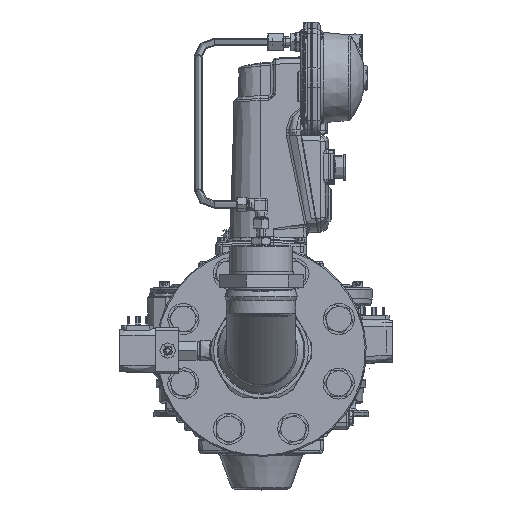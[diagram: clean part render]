
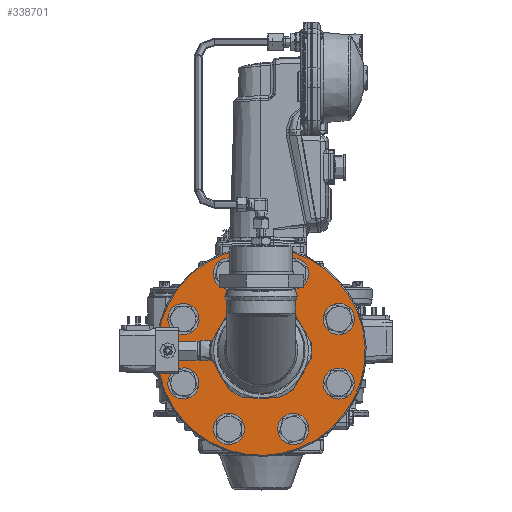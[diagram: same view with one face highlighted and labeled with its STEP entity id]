
A CAD part, top view. The second image highlights one B-rep face of the part: STEP entity #338701.
In plain terms, the highlighted planar face has unit normal (0, 0, 1).
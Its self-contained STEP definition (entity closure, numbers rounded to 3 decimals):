
#942 = AXIS2_PLACEMENT_3D ( 'NONE', #236037, #197638, #115906 ) ;
#6145 = CIRCLE ( 'NONE', #145949, 9. ) ;
#9088 = CARTESIAN_POINT ( 'NONE',  ( 73.91, -30.615, 177. ) ) ;
#9138 = EDGE_LOOP ( 'NONE', ( #313702 ) ) ;
#15978 = CARTESIAN_POINT ( 'NONE',  ( 73.91, 30.615, 177. ) ) ;
#16711 = ORIENTED_EDGE ( 'NONE', *, *, #427840, .F. ) ;
#17687 = FACE_BOUND ( 'NONE', #94464, .T. ) ;
#22355 = CIRCLE ( 'NONE', #87403, 9. ) ;
#30696 = AXIS2_PLACEMENT_3D ( 'NONE', #436370, #285268, #438878 ) ;
#41658 = EDGE_CURVE ( 'NONE', #272665, #272665, #424377, .T. ) ;
#45872 = FACE_BOUND ( 'NONE', #387674, .T. ) ;
#50872 = DIRECTION ( 'NONE',  ( 0.924, 0.383, 0. ) ) ;
#53756 = EDGE_LOOP ( 'NONE', ( #16711 ) ) ;
#56399 = VERTEX_POINT ( 'NONE', #284028 ) ;
#57011 = CARTESIAN_POINT ( 'NONE',  ( 22.3, -77.355, 177. ) ) ;
#71467 = EDGE_LOOP ( 'NONE', ( #86820 ) ) ;
#76656 = CIRCLE ( 'NONE', #493379, 9. ) ;
#83986 = CARTESIAN_POINT ( 'NONE',  ( -82.225, 27.171, 177. ) ) ;
#86820 = ORIENTED_EDGE ( 'NONE', *, *, #128299, .T. ) ;
#87403 = AXIS2_PLACEMENT_3D ( 'NONE', #9088, #477118, #377109 ) ;
#89261 = AXIS2_PLACEMENT_3D ( 'NONE', #433734, #205837, #361979 ) ;
#92141 = VERTEX_POINT ( 'NONE', #294231 ) ;
#92768 = VERTEX_POINT ( 'NONE', #57011 ) ;
#93751 = DIRECTION ( 'NONE',  ( 0., 0., -1. ) ) ;
#94464 = EDGE_LOOP ( 'NONE', ( #266939 ) ) ;
#102153 = ORIENTED_EDGE ( 'NONE', *, *, #142377, .T. ) ;
#111119 = CARTESIAN_POINT ( 'NONE',  ( -38.93, -77.355, 177. ) ) ;
#112946 = VERTEX_POINT ( 'NONE', #309939 ) ;
#115801 = EDGE_LOOP ( 'NONE', ( #314057 ) ) ;
#115906 = DIRECTION ( 'NONE',  ( -0.924, -0.383, 0. ) ) ;
#118255 = CIRCLE ( 'NONE', #387892, 45.25 ) ;
#124627 = AXIS2_PLACEMENT_3D ( 'NONE', #15978, #483889, #322906 ) ;
#127587 = FACE_BOUND ( 'NONE', #71467, .T. ) ;
#128299 = EDGE_CURVE ( 'NONE', #112946, #112946, #76656, .T. ) ;
#132674 = CARTESIAN_POINT ( 'NONE',  ( -92.388, -38.268, 177. ) ) ;
#142377 = EDGE_CURVE ( 'NONE', #56399, #56399, #22355, .T. ) ;
#145949 = AXIS2_PLACEMENT_3D ( 'NONE', #395825, #393332, #354907 ) ;
#151540 = DIRECTION ( 'NONE',  ( 0., 0., -1. ) ) ;
#151922 = CARTESIAN_POINT ( 'NONE',  ( 0., 0., 177. ) ) ;
#163420 = FACE_BOUND ( 'NONE', #479043, .T. ) ;
#182256 = CARTESIAN_POINT ( 'NONE',  ( -30.615, 73.91, 177. ) ) ;
#184742 = DIRECTION ( 'NONE',  ( -0.924, -0.383, 0. ) ) ;
#187381 = EDGE_LOOP ( 'NONE', ( #358036 ) ) ;
#188422 = ORIENTED_EDGE ( 'NONE', *, *, #393781, .T. ) ;
#190341 = VERTEX_POINT ( 'NONE', #111119 ) ;
#197638 = DIRECTION ( 'NONE',  ( 0., 0., -1. ) ) ;
#205837 = DIRECTION ( 'NONE',  ( 0., 0., -1. ) ) ;
#209249 = EDGE_CURVE ( 'NONE', #190341, #190341, #6145, .T. ) ;
#209299 = FACE_OUTER_BOUND ( 'NONE', #439937, .T. ) ;
#226558 = CIRCLE ( 'NONE', #30696, 99. ) ;
#236037 = CARTESIAN_POINT ( 'NONE',  ( -73.91, -30.615, 177. ) ) ;
#239248 = CARTESIAN_POINT ( 'NONE',  ( 22.3, 70.466, 177. ) ) ;
#255298 = CIRCLE ( 'NONE', #124627, 9. ) ;
#266939 = ORIENTED_EDGE ( 'NONE', *, *, #424024, .T. ) ;
#272665 = VERTEX_POINT ( 'NONE', #239248 ) ;
#282625 = AXIS2_PLACEMENT_3D ( 'NONE', #444277, #93751, #359963 ) ;
#284028 = CARTESIAN_POINT ( 'NONE',  ( 65.595, -34.059, 177. ) ) ;
#285268 = DIRECTION ( 'NONE',  ( 0., 0., 1. ) ) ;
#287356 = ORIENTED_EDGE ( 'NONE', *, *, #335562, .T. ) ;
#288645 = DIRECTION ( 'NONE',  ( 0., 0., 1. ) ) ;
#294231 = CARTESIAN_POINT ( 'NONE',  ( 41.806, 17.316, 177. ) ) ;
#309939 = CARTESIAN_POINT ( 'NONE',  ( -38.93, 70.466, 177. ) ) ;
#313702 = ORIENTED_EDGE ( 'NONE', *, *, #423167, .T. ) ;
#314057 = ORIENTED_EDGE ( 'NONE', *, *, #41658, .T. ) ;
#314346 = VERTEX_POINT ( 'NONE', #83986 ) ;
#319524 = PLANE ( 'NONE',  #442689 ) ;
#322906 = DIRECTION ( 'NONE',  ( -0.924, -0.383, 0. ) ) ;
#327637 = CIRCLE ( 'NONE', #942, 9. ) ;
#335562 = EDGE_CURVE ( 'NONE', #388635, #388635, #226558, .T. ) ;
#338701 = ADVANCED_FACE ( 'NONE', ( #209299, #365450, #127587, #398864, #447280, #163420, #367966, #437196, #17687, #45872 ), #319524, .T. ) ;
#340281 = ORIENTED_EDGE ( 'NONE', *, *, #462813, .T. ) ;
#352713 = CARTESIAN_POINT ( 'NONE',  ( 91.464, 37.886, 177. ) ) ;
#354907 = DIRECTION ( 'NONE',  ( -0.924, -0.383, 0. ) ) ;
#358036 = ORIENTED_EDGE ( 'NONE', *, *, #209249, .T. ) ;
#359963 = DIRECTION ( 'NONE',  ( -0.924, -0.383, 0. ) ) ;
#361979 = DIRECTION ( 'NONE',  ( -0.924, -0.383, 0. ) ) ;
#363505 = CARTESIAN_POINT ( 'NONE',  ( 30.615, 73.91, 177. ) ) ;
#365450 = FACE_BOUND ( 'NONE', #53756, .T. ) ;
#365956 = VERTEX_POINT ( 'NONE', #376023 ) ;
#367966 = FACE_BOUND ( 'NONE', #478786, .T. ) ;
#376023 = CARTESIAN_POINT ( 'NONE',  ( 65.595, 27.171, 177. ) ) ;
#377109 = DIRECTION ( 'NONE',  ( -0.924, -0.383, 0. ) ) ;
#387674 = EDGE_LOOP ( 'NONE', ( #340281 ) ) ;
#387892 = AXIS2_PLACEMENT_3D ( 'NONE', #151922, #428124, #389801 ) ;
#388635 = VERTEX_POINT ( 'NONE', #352713 ) ;
#389801 = DIRECTION ( 'NONE',  ( 0.924, 0.383, 0. ) ) ;
#391810 = CIRCLE ( 'NONE', #89261, 9. ) ;
#393332 = DIRECTION ( 'NONE',  ( 0., 0., -1. ) ) ;
#393781 = EDGE_CURVE ( 'NONE', #92768, #92768, #391810, .T. ) ;
#395825 = CARTESIAN_POINT ( 'NONE',  ( -30.615, -73.91, 177. ) ) ;
#398864 = FACE_BOUND ( 'NONE', #115801, .T. ) ;
#413507 = CIRCLE ( 'NONE', #282625, 9. ) ;
#423167 = EDGE_CURVE ( 'NONE', #365956, #365956, #255298, .T. ) ;
#424024 = EDGE_CURVE ( 'NONE', #445238, #445238, #327637, .T. ) ;
#424377 = CIRCLE ( 'NONE', #456812, 9. ) ;
#427840 = EDGE_CURVE ( 'NONE', #92141, #92141, #118255, .T. ) ;
#428124 = DIRECTION ( 'NONE',  ( 0., 0., 1. ) ) ;
#433734 = CARTESIAN_POINT ( 'NONE',  ( 30.615, -73.91, 177. ) ) ;
#436370 = CARTESIAN_POINT ( 'NONE',  ( 0., 0., 177. ) ) ;
#437196 = FACE_BOUND ( 'NONE', #187381, .T. ) ;
#438878 = DIRECTION ( 'NONE',  ( 0.924, 0.383, 0. ) ) ;
#439937 = EDGE_LOOP ( 'NONE', ( #287356 ) ) ;
#442689 = AXIS2_PLACEMENT_3D ( 'NONE', #132674, #288645, #50872 ) ;
#442775 = DIRECTION ( 'NONE',  ( -0.924, -0.383, 0. ) ) ;
#444277 = CARTESIAN_POINT ( 'NONE',  ( -73.91, 30.615, 177. ) ) ;
#445238 = VERTEX_POINT ( 'NONE', #452820 ) ;
#445332 = DIRECTION ( 'NONE',  ( 0., 0., -1. ) ) ;
#447280 = FACE_BOUND ( 'NONE', #9138, .T. ) ;
#452820 = CARTESIAN_POINT ( 'NONE',  ( -82.225, -34.059, 177. ) ) ;
#456812 = AXIS2_PLACEMENT_3D ( 'NONE', #363505, #445332, #442775 ) ;
#462813 = EDGE_CURVE ( 'NONE', #314346, #314346, #413507, .T. ) ;
#477118 = DIRECTION ( 'NONE',  ( 0., 0., -1. ) ) ;
#478786 = EDGE_LOOP ( 'NONE', ( #188422 ) ) ;
#479043 = EDGE_LOOP ( 'NONE', ( #102153 ) ) ;
#483889 = DIRECTION ( 'NONE',  ( 0., 0., -1. ) ) ;
#493379 = AXIS2_PLACEMENT_3D ( 'NONE', #182256, #151540, #184742 ) ;
